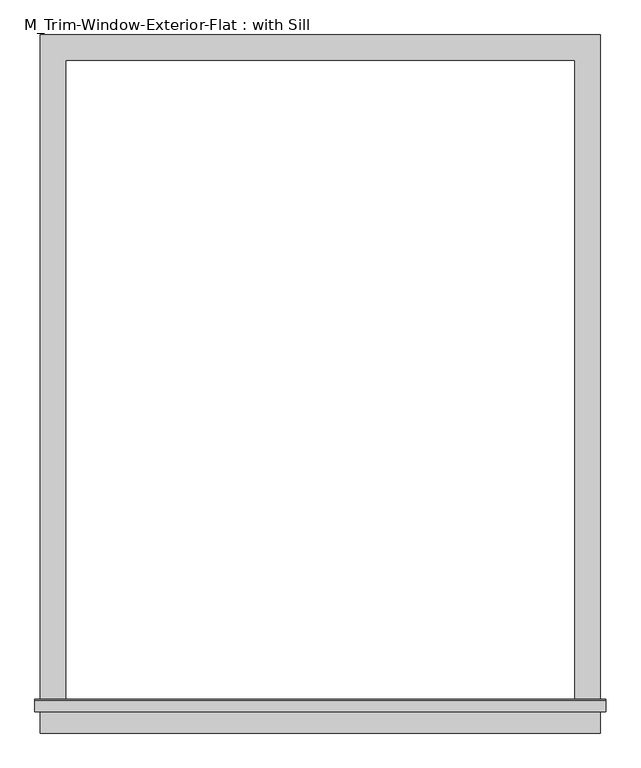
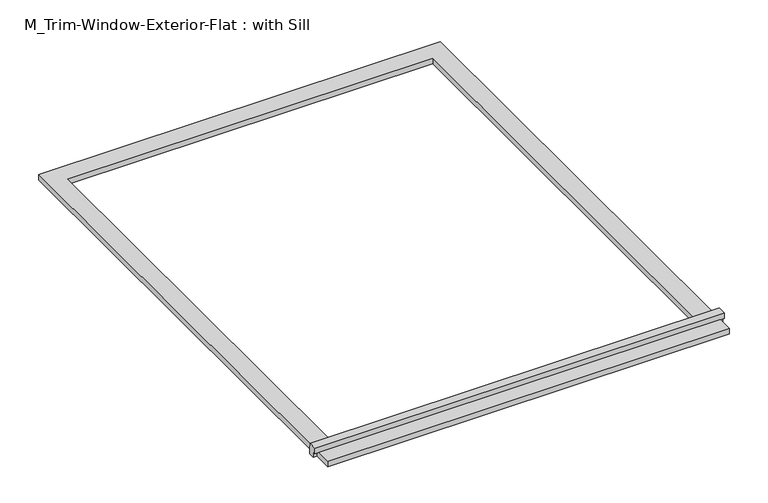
"""IFC4 building model written with IfcOpenShell, lengths in millimetres: proxy geometry, M_Trim-Window-Exterior-Flat : with Sill."""

from ifc_helpers import new_model, si_unit, frame, origin, origin_with_axes, place, context, project, spatial, polyline, outline, extrude, source, transform, mapped, element, save


def m_trim_window_exterior_flat_with_sill_2ba75bba(model_context):
    return source(origin(), model_context, "Body", "SweptSolid", [
        extrude(outline(polyline([(662.1, -1529.4323709), (662.1, -1589.4323709), (-662.1, -1589.4323709), (-662.1, -1529.4323709), (662.1, -1529.4323709)])), origin_with_axes(), (0.0, 0.0, 1.0), 19.05),
        extrude(outline(polyline([(-1539.0, 38.1), (-1511.4580645, 38.1), (-1509.0, 19.05), (-1509.0, 0.0), (-1529.4323709, 0.0), (-1529.4323709, 19.05), (-1539.0, 19.05), (-1539.0, 38.1)])), frame((-674.8, 0.0, 0.0), z_axis=(1.0, 0.0, 0.0), x_axis=(0.0, 1.0, 0.0)), (0.0, 0.0, 1.0), 1349.6),
        extrude(outline(polyline([(-662.1, 60.0), (662.1, 60.0), (662.1, -1509.0), (602.1, -1509.0), (602.1, 0.0), (-602.1, 0.0), (-602.1, -1509.0), (-662.1, -1509.0), (-662.1, 60.0)])), origin_with_axes(), (0.0, 0.0, 1.0), 19.05),
    ])


if __name__ == "__main__":
    model = new_model("IFC4")
    model_context = context("Model", 3, world=origin())
    ifc_project = project(units=[si_unit("LENGTHUNIT", "METRE", prefix="MILLI")], contexts=[model_context])
    site = spatial("IfcSite", under=ifc_project)
    building = spatial("IfcBuilding", under=site)
    placement = place(None, origin())
    m_trim_window_exterior_flat_with_sill_shape = m_trim_window_exterior_flat_with_sill_2ba75bba(model_context)
    element("IfcBuildingElementProxy", 1, Name="M_Trim-Window-Exterior-Flat : with Sill", ObjectType="M_Trim-Window-Exterior-Flat : with Sill", at=placement, inside=building, context=model_context, shape_type="MappedRepresentation", body=[
        mapped(m_trim_window_exterior_flat_with_sill_shape, transform((0.0, 0.0, 0.0), x_axis=(1.0, 0.0, 0.0), y_axis=(0.0, 1.0, 0.0), z_axis=(0.0, 0.0, 1.0))),
    ])
    save(model, "model.ifc")
